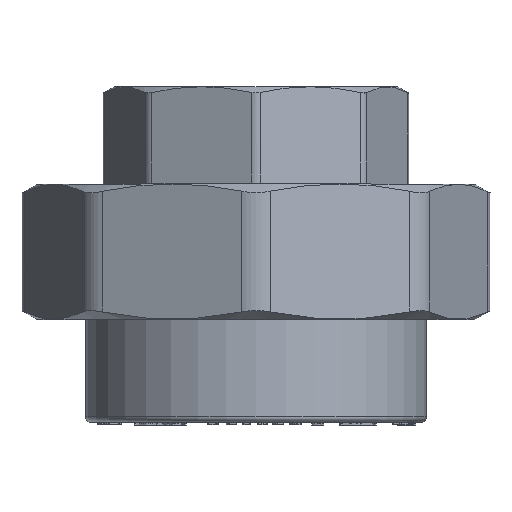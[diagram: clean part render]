
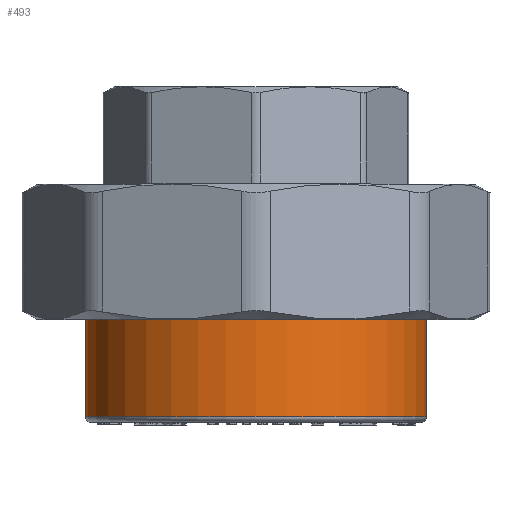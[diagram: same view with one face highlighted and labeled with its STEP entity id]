
A CAD part, top view. The second image highlights one B-rep face of the part: STEP entity #493.
In plain terms, the highlighted cylindrical face has radius 31.5 mm (diameter 63 mm), a full revolution.
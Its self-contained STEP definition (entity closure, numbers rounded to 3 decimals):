
#493=ADVANCED_FACE('',(#3677,#3679),#3681,.T.);
#3677=FACE_OUTER_BOUND('',#3678,.T.);
#3678=EDGE_LOOP('',(#8453));
#3679=FACE_OUTER_BOUND('',#3680,.T.);
#3680=EDGE_LOOP('',(#8454));
#3681=CYLINDRICAL_SURFACE('',#3682,31.5);
#3682=AXIS2_PLACEMENT_3D('',#3683,#3684,#3685);
#3683=CARTESIAN_POINT('',(0.,0.,0.));
#3684=DIRECTION('',(0.,1.,0.));
#3685=DIRECTION('',(-1.,0.,0.));
#8453=ORIENTED_EDGE('',*,*,#11790,.F.);
#8454=ORIENTED_EDGE('',*,*,#10914,.T.);
#10914=EDGE_CURVE('',#13313,#13313,#13314,.T.);
#11790=EDGE_CURVE('',#14628,#14628,#14629,.T.);
#13313=VERTEX_POINT('',#17886);
#13314=CIRCLE('',#17887,31.5);
#14628=VERTEX_POINT('',#20962);
#14629=CIRCLE('',#20963,31.5);
#17886=CARTESIAN_POINT('',(-31.5,1.,0.));
#17887=AXIS2_PLACEMENT_3D('',#17888,#17889,#17890);
#17888=CARTESIAN_POINT('',(0.,1.,0.));
#17889=DIRECTION('',(0.,1.,0.));
#17890=DIRECTION('',(-1.,0.,0.));
#20962=CARTESIAN_POINT('',(-31.5,23.5,0.));
#20963=AXIS2_PLACEMENT_3D('',#20964,#20965,#20966);
#20964=CARTESIAN_POINT('',(0.,23.5,0.));
#20965=DIRECTION('',(0.,1.,0.));
#20966=DIRECTION('',(-1.,0.,0.));
